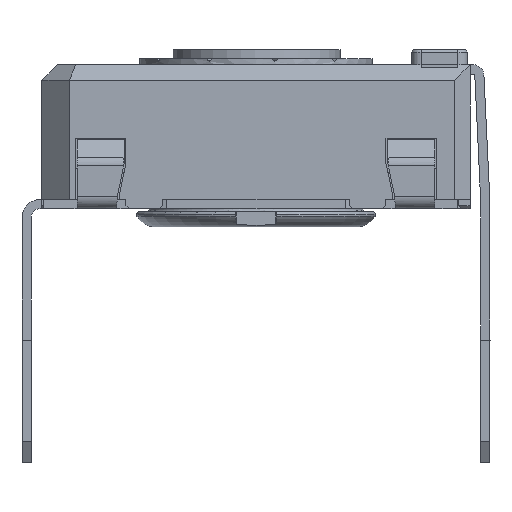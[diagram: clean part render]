
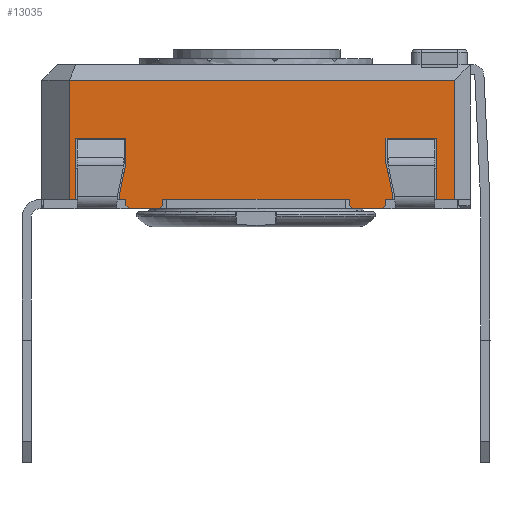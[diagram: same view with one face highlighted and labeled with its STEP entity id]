
A CAD part, left-side view. The second image highlights one B-rep face of the part: STEP entity #13035.
In plain terms, the highlighted planar face has unit normal (-1, 0, 0).
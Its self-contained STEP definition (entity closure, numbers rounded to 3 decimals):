
#451=PLANE('',#13910);
#1052=FACE_OUTER_BOUND('',#1732,.T.);
#1732=EDGE_LOOP('',(#10757,#10758,#10759,#10760,#10761,#10762,#10763,#10764,
#10765,#10766,#10767,#10768,#10769,#10770,#10771,#10772,#10773,#10774,#10775,
#10776,#10777,#10778,#10779,#10780,#10781,#10782,#10783,#10784));
#2732=LINE('',#19953,#4231);
#2738=LINE('',#19965,#4237);
#2741=LINE('',#19972,#4240);
#2746=LINE('',#19981,#4245);
#2766=LINE('',#20022,#4265);
#2780=LINE('',#20048,#4279);
#2784=LINE('',#20055,#4283);
#2799=LINE('',#20084,#4298);
#2802=LINE('',#20090,#4301);
#2807=LINE('',#20100,#4306);
#2810=LINE('',#20106,#4309);
#2813=LINE('',#20112,#4312);
#2831=LINE('',#20147,#4330);
#2843=LINE('',#20169,#4342);
#2846=LINE('',#20175,#4345);
#2883=LINE('',#20309,#4382);
#2891=LINE('',#20323,#4390);
#2900=LINE('',#20341,#4399);
#2905=LINE('',#20351,#4404);
#2907=LINE('',#20354,#4406);
#3032=LINE('',#20665,#4531);
#3034=LINE('',#20670,#4533);
#3037=LINE('',#20674,#4536);
#3039=LINE('',#20678,#4538);
#3042=LINE('',#20686,#4541);
#3043=LINE('',#20688,#4542);
#3044=LINE('',#20689,#4543);
#3045=LINE('',#20690,#4544);
#4231=VECTOR('',#15964,10.);
#4237=VECTOR('',#15972,10.);
#4240=VECTOR('',#15977,10.);
#4245=VECTOR('',#15984,10.);
#4265=VECTOR('',#16018,10.);
#4279=VECTOR('',#16032,10.);
#4283=VECTOR('',#16036,10.);
#4298=VECTOR('',#16063,10.);
#4301=VECTOR('',#16068,10.);
#4306=VECTOR('',#16075,10.);
#4309=VECTOR('',#16080,10.);
#4312=VECTOR('',#16085,10.);
#4330=VECTOR('',#16105,10.);
#4342=VECTOR('',#16119,10.);
#4345=VECTOR('',#16124,10.);
#4382=VECTOR('',#16205,10.);
#4390=VECTOR('',#16215,10.);
#4399=VECTOR('',#16226,10.);
#4404=VECTOR('',#16233,10.);
#4406=VECTOR('',#16237,10.);
#4531=VECTOR('',#16528,10.);
#4533=VECTOR('',#16532,10.);
#4536=VECTOR('',#16537,10.);
#4538=VECTOR('',#16543,10.);
#4541=VECTOR('',#16554,10.);
#4542=VECTOR('',#16555,10.);
#4543=VECTOR('',#16556,10.);
#4544=VECTOR('',#16557,10.);
#5960=VERTEX_POINT('',#19950);
#5961=VERTEX_POINT('',#19952);
#5965=VERTEX_POINT('',#19962);
#5967=VERTEX_POINT('',#19968);
#5969=VERTEX_POINT('',#19971);
#5972=VERTEX_POINT('',#19979);
#5997=VERTEX_POINT('',#20045);
#5998=VERTEX_POINT('',#20047);
#6000=VERTEX_POINT('',#20052);
#6001=VERTEX_POINT('',#20054);
#6008=VERTEX_POINT('',#20081);
#6010=VERTEX_POINT('',#20087);
#6014=VERTEX_POINT('',#20097);
#6016=VERTEX_POINT('',#20103);
#6019=VERTEX_POINT('',#20110);
#6035=VERTEX_POINT('',#20145);
#6044=VERTEX_POINT('',#20167);
#6046=VERTEX_POINT('',#20173);
#6073=VERTEX_POINT('',#20307);
#6078=VERTEX_POINT('',#20321);
#6085=VERTEX_POINT('',#20338);
#6089=VERTEX_POINT('',#20348);
#6163=VERTEX_POINT('',#20662);
#6164=VERTEX_POINT('',#20664);
#6165=VERTEX_POINT('',#20668);
#6166=VERTEX_POINT('',#20669);
#6167=VERTEX_POINT('',#20685);
#6168=VERTEX_POINT('',#20687);
#7478=EDGE_CURVE('',#5961,#5960,#2732,.T.);
#7484=EDGE_CURVE('',#5960,#5965,#2738,.T.);
#7487=EDGE_CURVE('',#5969,#5967,#2741,.T.);
#7492=EDGE_CURVE('',#5972,#5967,#2746,.T.);
#7512=EDGE_CURVE('',#5965,#5969,#2766,.T.);
#7526=EDGE_CURVE('',#5998,#5997,#2780,.T.);
#7530=EDGE_CURVE('',#6001,#6000,#2784,.T.);
#7546=EDGE_CURVE('',#5997,#6008,#2799,.T.);
#7549=EDGE_CURVE('',#6008,#6010,#2802,.T.);
#7554=EDGE_CURVE('',#6010,#6014,#2807,.T.);
#7557=EDGE_CURVE('',#6014,#6016,#2810,.T.);
#7560=EDGE_CURVE('',#6016,#6019,#2813,.T.);
#7578=EDGE_CURVE('',#6019,#6035,#2831,.T.);
#7590=EDGE_CURVE('',#6044,#6035,#2843,.T.);
#7593=EDGE_CURVE('',#6046,#6044,#2846,.T.);
#7642=EDGE_CURVE('',#6073,#6046,#2883,.T.);
#7650=EDGE_CURVE('',#6073,#6078,#2891,.T.);
#7659=EDGE_CURVE('',#6078,#6085,#2900,.T.);
#7664=EDGE_CURVE('',#6085,#6089,#2905,.T.);
#7666=EDGE_CURVE('',#6089,#5961,#2907,.T.);
#7807=EDGE_CURVE('',#6163,#6164,#3032,.T.);
#7809=EDGE_CURVE('',#6165,#6166,#3034,.T.);
#7812=EDGE_CURVE('',#5998,#6163,#3037,.T.);
#7814=EDGE_CURVE('',#6000,#6166,#3039,.T.);
#7817=EDGE_CURVE('',#5972,#6167,#3042,.T.);
#7818=EDGE_CURVE('',#6168,#6167,#3043,.T.);
#7819=EDGE_CURVE('',#6001,#6168,#3044,.T.);
#7820=EDGE_CURVE('',#6165,#6164,#3045,.T.);
#10757=ORIENTED_EDGE('',*,*,#7484,.T.);
#10758=ORIENTED_EDGE('',*,*,#7512,.T.);
#10759=ORIENTED_EDGE('',*,*,#7487,.T.);
#10760=ORIENTED_EDGE('',*,*,#7492,.F.);
#10761=ORIENTED_EDGE('',*,*,#7817,.T.);
#10762=ORIENTED_EDGE('',*,*,#7818,.F.);
#10763=ORIENTED_EDGE('',*,*,#7819,.F.);
#10764=ORIENTED_EDGE('',*,*,#7530,.T.);
#10765=ORIENTED_EDGE('',*,*,#7814,.T.);
#10766=ORIENTED_EDGE('',*,*,#7809,.F.);
#10767=ORIENTED_EDGE('',*,*,#7820,.T.);
#10768=ORIENTED_EDGE('',*,*,#7807,.F.);
#10769=ORIENTED_EDGE('',*,*,#7812,.F.);
#10770=ORIENTED_EDGE('',*,*,#7526,.T.);
#10771=ORIENTED_EDGE('',*,*,#7546,.T.);
#10772=ORIENTED_EDGE('',*,*,#7549,.T.);
#10773=ORIENTED_EDGE('',*,*,#7554,.T.);
#10774=ORIENTED_EDGE('',*,*,#7557,.T.);
#10775=ORIENTED_EDGE('',*,*,#7560,.T.);
#10776=ORIENTED_EDGE('',*,*,#7578,.T.);
#10777=ORIENTED_EDGE('',*,*,#7590,.F.);
#10778=ORIENTED_EDGE('',*,*,#7593,.F.);
#10779=ORIENTED_EDGE('',*,*,#7642,.F.);
#10780=ORIENTED_EDGE('',*,*,#7650,.T.);
#10781=ORIENTED_EDGE('',*,*,#7659,.T.);
#10782=ORIENTED_EDGE('',*,*,#7664,.T.);
#10783=ORIENTED_EDGE('',*,*,#7666,.T.);
#10784=ORIENTED_EDGE('',*,*,#7478,.T.);
#13035=ADVANCED_FACE('',(#1052),#451,.T.);
#13910=AXIS2_PLACEMENT_3D('',#20684,#16552,#16553);
#15964=DIRECTION('',(0.,0.208,-0.978));
#15972=DIRECTION('',(0.,0.,-1.));
#15977=DIRECTION('',(0.,0.,-1.));
#15984=DIRECTION('',(0.,0.707,0.707));
#16018=DIRECTION('',(0.,-1.,0.));
#16032=DIRECTION('',(0.,-1.,0.));
#16036=DIRECTION('',(0.,-1.,0.));
#16063=DIRECTION('',(0.,0.,1.));
#16068=DIRECTION('',(0.,0.208,0.978));
#16075=DIRECTION('',(0.,0.,1.));
#16080=DIRECTION('',(0.,-1.,0.));
#16085=DIRECTION('',(0.,0.,-1.));
#16105=DIRECTION('',(0.,-1.,0.));
#16119=DIRECTION('',(0.,0.,-1.));
#16124=DIRECTION('',(0.,-1.,0.));
#16205=DIRECTION('',(0.,0.,1.));
#16215=DIRECTION('',(0.,-1.,0.));
#16226=DIRECTION('',(0.,0.,1.));
#16233=DIRECTION('',(0.,-1.,0.));
#16237=DIRECTION('',(0.,0.,-1.));
#16528=DIRECTION('',(0.,0.707,-0.707));
#16532=DIRECTION('',(0.,0.707,0.707));
#16537=DIRECTION('',(0.,0.,-1.));
#16543=DIRECTION('',(0.,0.,-1.));
#16552=DIRECTION('center_axis',(-1.,0.,0.));
#16553=DIRECTION('ref_axis',(0.,0.,1.));
#16554=DIRECTION('',(0.,-1.,0.));
#16555=DIRECTION('',(0.,0.707,-0.707));
#16556=DIRECTION('',(0.,0.,-1.));
#16557=DIRECTION('',(0.,-1.,0.));
#19950=CARTESIAN_POINT('',(-14.467,1.552,0.235));
#19952=CARTESIAN_POINT('',(-14.467,1.352,1.176));
#19953=CARTESIAN_POINT('',(-14.467,1.228,1.757));
#19962=CARTESIAN_POINT('',(-14.467,1.552,0.));
#19965=CARTESIAN_POINT('',(-14.467,1.552,0.));
#19968=CARTESIAN_POINT('',(-14.467,1.352,-0.2));
#19971=CARTESIAN_POINT('',(-14.467,1.352,0.));
#19972=CARTESIAN_POINT('',(-14.467,1.352,0.));
#19979=CARTESIAN_POINT('',(-14.467,1.252,-0.3));
#19981=CARTESIAN_POINT('',(-14.467,-1.436,-2.988));
#20022=CARTESIAN_POINT('',(-14.467,4.102,0.));
#20045=CARTESIAN_POINT('',(-14.467,-7.348,0.));
#20047=CARTESIAN_POINT('',(-14.467,-7.148,0.));
#20048=CARTESIAN_POINT('',(-14.467,4.102,0.));
#20052=CARTESIAN_POINT('',(-14.467,-5.948,0.));
#20054=CARTESIAN_POINT('',(-14.467,0.152,0.));
#20055=CARTESIAN_POINT('',(-14.467,4.102,0.));
#20081=CARTESIAN_POINT('',(-14.467,-7.348,0.235));
#20084=CARTESIAN_POINT('',(-14.467,-7.348,0.118));
#20087=CARTESIAN_POINT('',(-14.467,-7.148,1.176));
#20090=CARTESIAN_POINT('',(-14.467,-7.453,-0.254));
#20097=CARTESIAN_POINT('',(-14.467,-7.148,2.));
#20100=CARTESIAN_POINT('',(-14.467,-7.148,0.588));
#20103=CARTESIAN_POINT('',(-14.467,-8.798,2.));
#20106=CARTESIAN_POINT('',(-14.467,-8.523,2.));
#20110=CARTESIAN_POINT('',(-14.467,-8.798,0.));
#20112=CARTESIAN_POINT('',(-14.467,-8.798,0.));
#20145=CARTESIAN_POINT('',(-14.467,-9.398,0.));
#20147=CARTESIAN_POINT('',(-14.467,-9.595,0.));
#20167=CARTESIAN_POINT('',(-14.467,-9.398,3.9));
#20169=CARTESIAN_POINT('',(-14.467,-9.398,0.));
#20173=CARTESIAN_POINT('',(-14.467,3.202,3.9));
#20175=CARTESIAN_POINT('',(-14.467,-6.398,3.9));
#20307=CARTESIAN_POINT('',(-14.467,3.202,0.));
#20309=CARTESIAN_POINT('',(-14.467,3.202,0.));
#20321=CARTESIAN_POINT('',(-14.467,3.002,0.));
#20323=CARTESIAN_POINT('',(-14.467,-2.985,0.));
#20338=CARTESIAN_POINT('',(-14.467,3.002,2.));
#20341=CARTESIAN_POINT('',(-14.467,3.002,0.));
#20348=CARTESIAN_POINT('',(-14.467,1.352,2.));
#20351=CARTESIAN_POINT('',(-14.467,-3.448,2.));
#20354=CARTESIAN_POINT('',(-14.467,1.352,1.));
#20662=CARTESIAN_POINT('',(-14.467,-7.148,-0.2));
#20664=CARTESIAN_POINT('',(-14.467,-7.048,-0.3));
#20665=CARTESIAN_POINT('',(-14.467,-7.861,0.513));
#20668=CARTESIAN_POINT('',(-14.467,-6.048,-0.3));
#20669=CARTESIAN_POINT('',(-14.467,-5.948,-0.2));
#20670=CARTESIAN_POINT('',(-14.467,-6.911,-1.163));
#20674=CARTESIAN_POINT('',(-14.467,-7.148,0.));
#20678=CARTESIAN_POINT('',(-14.467,-5.948,0.));
#20684=CARTESIAN_POINT('Origin',(-14.467,-9.898,0.));
#20685=CARTESIAN_POINT('',(-14.467,0.252,-0.3));
#20686=CARTESIAN_POINT('',(-14.467,0.152,-0.3));
#20687=CARTESIAN_POINT('',(-14.467,0.152,-0.2));
#20688=CARTESIAN_POINT('',(-14.467,-2.386,2.338));
#20689=CARTESIAN_POINT('',(-14.467,0.152,0.));
#20690=CARTESIAN_POINT('',(-14.467,-7.148,-0.3));
